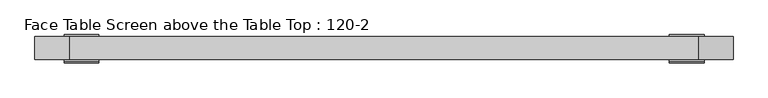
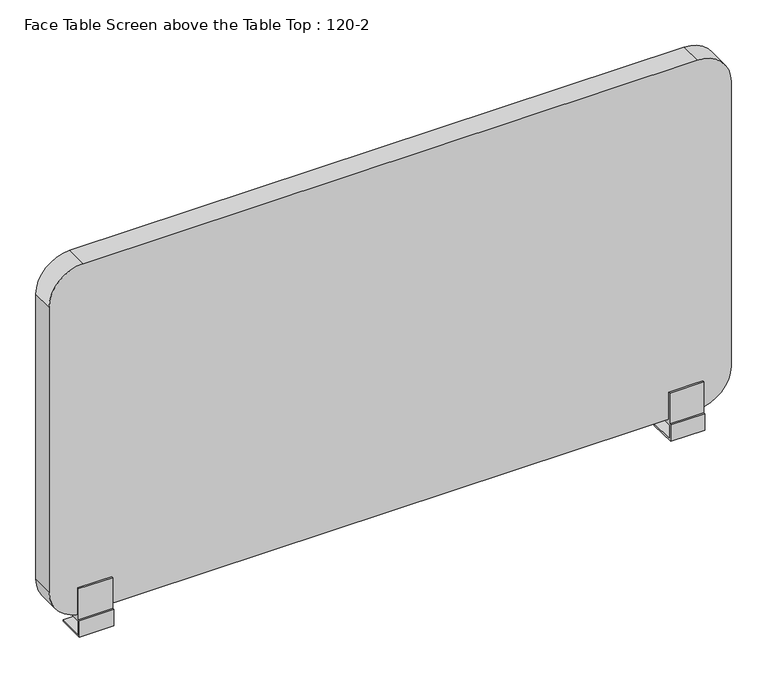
"""IFC4 building model written with IfcOpenShell, lengths in millimetres: furniture geometry, Face Table Screen above the Table Top : 120-2."""

from ifc_helpers import new_model, si_unit, point, frame, frame_2d, origin, place, context, project, spatial, polyline, circle_curve, trimmed, segment, composite_curve, outline, extrude, source, transform, mapped, element, save
from ifc_brep_helpers import plane_surface, cylinder_surface, advanced_brep


def face_table_screen_above_the_table_top_120_2_89d26c9a(model_context):
    return source(origin(), model_context, "Body", "SolidModel", [
        advanced_brep(
        [(-525.0, 0.0, -39.4406633), (-515.0, 0.0, -39.4406633), (-515.0, 0.0, -28.0), (-525.0, 0.0, -28.0), (-550.0, 23.0, -25.0), (-550.0, -23.0, -25.0), (-490.0, -23.0, -25.0), (-490.0, 23.0, -25.0), (-550.0, -23.0, 0.0), (-550.0, 23.0, -28.0), (-550.0, -26.0, -28.0), (-550.0, -26.0, 3.0), (-550.0, -23.0, 3.0), (-550.0, -23.0, 60.0), (-550.0, -20.0, 60.0), (-550.0, -20.0, 10.0), (-550.0, 20.0, 10.0), (-550.0, 20.0, 60.0), (-550.0, 23.0, 60.0), (-550.0, 23.0, 0.0), (-490.0, -23.0, 0.0), (-490.0, 23.0, 0.0), (-490.0, 23.0, 60.0), (-490.0, 20.0, 60.0), (-490.0, 20.0, 10.0), (-490.0, -20.0, 10.0), (-490.0, -20.0, 60.0), (-490.0, -23.0, 60.0), (-490.0, -23.0, 3.0), (-490.0, -26.0, 3.0), (-490.0, -26.0, -28.0), (-490.0, 23.0, -28.0)],
        [
            (0, 1, circle_curve(frame((-520.0, 0.0, -39.4406633), z_axis=(0.0, 0.0, -1.0), x_axis=(1.0, 0.0, 0.0)), 5.0)),
            (1, 0, circle_curve(frame((-520.0, 0.0, -39.4406633), z_axis=(0.0, 0.0, -1.0), x_axis=(1.0, 0.0, 0.0)), 5.0)),
            (1, 2),
            (2, 3, circle_curve(frame((-520.0, 0.0, -28.0), z_axis=(0.0, 0.0, -1.0), x_axis=(1.0, 0.0, 0.0)), 5.0)),
            (3, 0),
            (3, 2, circle_curve(frame((-520.0, 0.0, -28.0), z_axis=(0.0, 0.0, -1.0), x_axis=(1.0, 0.0, 0.0)), 5.0)),
            (4, 5),
            (5, 6),
            (6, 7),
            (7, 4),
            (8, 5),
            (4, 9),
            (9, 10),
            (10, 11),
            (11, 12),
            (12, 13),
            (13, 14),
            (14, 15),
            (15, 16),
            (16, 17),
            (17, 18),
            (18, 19),
            (19, 8),
            (20, 21),
            (21, 22),
            (22, 23),
            (23, 24),
            (24, 25),
            (25, 26),
            (26, 27),
            (27, 28),
            (28, 29),
            (29, 30),
            (30, 31),
            (31, 7),
            (6, 20),
            (19, 21),
            (20, 8),
            (18, 22),
            (17, 23),
            (16, 24),
            (15, 25),
            (14, 26),
            (13, 27),
            (12, 28),
            (11, 29),
            (10, 30),
            (9, 31),
        ],
        [
            plane_surface(frame((-515.0, 0.0, -39.4406633), z_axis=(0.0, 0.0, -1.0), x_axis=(0.0, -1.0, 0.0))),
            cylinder_surface(frame((-520.0, 0.0, -39.4406633), z_axis=(0.0, 0.0, 1.0), x_axis=(1.0, 0.0, 0.0)), 5.0),
            plane_surface(frame((-515.0, 0.0, -25.0), z_axis=(0.0, 0.0, 1.0), x_axis=(0.0, 1.0, 0.0))),
            plane_surface(frame((-550.0, 23.0, 0.0), z_axis=(-1.0, 0.0, 0.0), x_axis=(0.0, -1.0, 0.0))),
            plane_surface(frame((-490.0, 23.0, 0.0), z_axis=(1.0, 0.0, 0.0), x_axis=(0.0, 1.0, 0.0))),
            plane_surface(frame((-490.0, -23.0, 0.0), z_axis=(0.0, 0.0, -1.0), x_axis=(-1.0, 0.0, 0.0))),
            plane_surface(frame((-490.0, 23.0, 0.0), z_axis=(0.0, 1.0, 0.0), x_axis=(-1.0, 0.0, 0.0))),
            plane_surface(frame((-490.0, 23.0, 60.0), z_axis=(0.0, 0.0, 1.0), x_axis=(-1.0, 0.0, 0.0))),
            plane_surface(frame((-490.0, 20.0, 60.0), z_axis=(0.0, -1.0, 0.0), x_axis=(-1.0, 0.0, 0.0))),
            plane_surface(frame((-490.0, 20.0, 10.0), z_axis=(0.0, 0.0, 1.0), x_axis=(-1.0, 0.0, 0.0))),
            plane_surface(frame((-490.0, -20.0, 10.0), z_axis=(0.0, 1.0, 0.0), x_axis=(-1.0, 0.0, 0.0))),
            plane_surface(frame((-490.0, -20.0, 60.0), z_axis=(0.0, 0.0, 1.0), x_axis=(-1.0, 0.0, 0.0))),
            plane_surface(frame((-490.0, -23.0, 60.0), z_axis=(0.0, -1.0, 0.0), x_axis=(-1.0, 0.0, 0.0))),
            plane_surface(frame((-490.0, -23.0, 3.0), z_axis=(0.0, 0.0, 1.0), x_axis=(-1.0, 0.0, 0.0))),
            plane_surface(frame((-490.0, -26.0, 3.0), z_axis=(0.0, -1.0, 0.0), x_axis=(-1.0, 0.0, 0.0))),
            plane_surface(frame((-490.0, -26.0, -28.0), z_axis=(0.0, 0.0, -1.0), x_axis=(-1.0, 0.0, 0.0))),
            plane_surface(frame((-490.0, 23.0, -28.0), z_axis=(0.0, 1.0, 0.0), x_axis=(-1.0, 0.0, 0.0))),
            plane_surface(frame((-490.0, -23.0, -25.0), z_axis=(0.0, 1.0, 0.0), x_axis=(-1.0, 0.0, 0.0))),
        ],
        [
            (0, [[1, 2]]),
            (1, [[-2, 3, 4, 5]]),
            (1, [[-1, -5, 6, -3]]),
            (2, [[7, 8, 9, 10]]),
            (3, [[11, -7, 12, 13, 14, 15, 16, 17, 18, 19, 20, 21, 22, 23]]),
            (4, [[24, 25, 26, 27, 28, 29, 30, 31, 32, 33, 34, 35, -9, 36]]),
            (5, [[-23, 37, -24, 38]]),
            (6, [[-22, 39, -25, -37]]),
            (7, [[-21, 40, -26, -39]]),
            (8, [[-20, 41, -27, -40]]),
            (9, [[-19, 42, -28, -41]]),
            (10, [[-18, 43, -29, -42]]),
            (11, [[-17, 44, -30, -43]]),
            (12, [[-16, 45, -31, -44]]),
            (13, [[-15, 46, -32, -45]]),
            (14, [[-14, 47, -33, -46]]),
            (15, [[-13, 48, -34, -47], [-4, -6]]),
            (16, [[-12, -10, -35, -48]]),
            (17, [[-11, -38, -36, -8]]),
        ],
    ),
        advanced_brep(
        [(515.0, 0.0, -39.4406633), (525.0, 0.0, -39.4406633), (525.0, 0.0, -28.0), (515.0, 0.0, -28.0), (490.0, 23.0, -25.0), (490.0, -23.0, -25.0), (550.0, -23.0, -25.0), (550.0, 23.0, -25.0), (490.0, -23.0, 0.0), (490.0, 23.0, -28.0), (490.0, -26.0, -28.0), (490.0, -26.0, 3.0), (490.0, -23.0, 3.0), (490.0, -23.0, 60.0), (490.0, -20.0, 60.0), (490.0, -20.0, 10.0), (490.0, 20.0, 10.0), (490.0, 20.0, 60.0), (490.0, 23.0, 60.0), (490.0, 23.0, 0.0), (550.0, -23.0, 0.0), (550.0, 23.0, 0.0), (550.0, 23.0, 60.0), (550.0, 20.0, 60.0), (550.0, 20.0, 10.0), (550.0, -20.0, 10.0), (550.0, -20.0, 60.0), (550.0, -23.0, 60.0), (550.0, -23.0, 3.0), (550.0, -26.0, 3.0), (550.0, -26.0, -28.0), (550.0, 23.0, -28.0)],
        [
            (0, 1, circle_curve(frame((520.0, 0.0, -39.4406633), z_axis=(0.0, 0.0, -1.0), x_axis=(1.0, 0.0, 0.0)), 5.0)),
            (1, 0, circle_curve(frame((520.0, 0.0, -39.4406633), z_axis=(0.0, 0.0, -1.0), x_axis=(1.0, 0.0, 0.0)), 5.0)),
            (1, 2),
            (2, 3, circle_curve(frame((520.0, 0.0, -28.0), z_axis=(0.0, 0.0, -1.0), x_axis=(1.0, 0.0, 0.0)), 5.0)),
            (3, 0),
            (3, 2, circle_curve(frame((520.0, 0.0, -28.0), z_axis=(0.0, 0.0, -1.0), x_axis=(1.0, 0.0, 0.0)), 5.0)),
            (4, 5),
            (5, 6),
            (6, 7),
            (7, 4),
            (8, 5),
            (4, 9),
            (9, 10),
            (10, 11),
            (11, 12),
            (12, 13),
            (13, 14),
            (14, 15),
            (15, 16),
            (16, 17),
            (17, 18),
            (18, 19),
            (19, 8),
            (20, 21),
            (21, 22),
            (22, 23),
            (23, 24),
            (24, 25),
            (25, 26),
            (26, 27),
            (27, 28),
            (28, 29),
            (29, 30),
            (30, 31),
            (31, 7),
            (6, 20),
            (19, 21),
            (20, 8),
            (18, 22),
            (17, 23),
            (16, 24),
            (15, 25),
            (14, 26),
            (13, 27),
            (12, 28),
            (11, 29),
            (10, 30),
            (9, 31),
        ],
        [
            plane_surface(frame((525.0, 0.0, -39.4406633), z_axis=(0.0, 0.0, -1.0), x_axis=(0.0, -1.0, 0.0))),
            cylinder_surface(frame((520.0, 0.0, -39.4406633), z_axis=(0.0, 0.0, 1.0), x_axis=(1.0, 0.0, 0.0)), 5.0),
            plane_surface(frame((525.0, 0.0, -25.0), z_axis=(0.0, 0.0, 1.0), x_axis=(0.0, 1.0, 0.0))),
            plane_surface(frame((490.0, 23.0, 0.0), z_axis=(-1.0, 0.0, 0.0), x_axis=(0.0, -1.0, 0.0))),
            plane_surface(frame((550.0, 23.0, 0.0), z_axis=(1.0, 0.0, 0.0), x_axis=(0.0, 1.0, 0.0))),
            plane_surface(frame((550.0, -23.0, 0.0), z_axis=(0.0, 0.0, -1.0), x_axis=(-1.0, 0.0, 0.0))),
            plane_surface(frame((550.0, 23.0, 0.0), z_axis=(0.0, 1.0, 0.0), x_axis=(-1.0, 0.0, 0.0))),
            plane_surface(frame((550.0, 23.0, 60.0), z_axis=(0.0, 0.0, 1.0), x_axis=(-1.0, 0.0, 0.0))),
            plane_surface(frame((550.0, 20.0, 60.0), z_axis=(0.0, -1.0, 0.0), x_axis=(-1.0, 0.0, 0.0))),
            plane_surface(frame((550.0, 20.0, 10.0), z_axis=(0.0, 0.0, 1.0), x_axis=(-1.0, 0.0, 0.0))),
            plane_surface(frame((550.0, -20.0, 10.0), z_axis=(0.0, 1.0, 0.0), x_axis=(-1.0, 0.0, 0.0))),
            plane_surface(frame((550.0, -20.0, 60.0), z_axis=(0.0, 0.0, 1.0), x_axis=(-1.0, 0.0, 0.0))),
            plane_surface(frame((550.0, -23.0, 60.0), z_axis=(0.0, -1.0, 0.0), x_axis=(-1.0, 0.0, 0.0))),
            plane_surface(frame((550.0, -23.0, 3.0), z_axis=(0.0, 0.0, 1.0), x_axis=(-1.0, 0.0, 0.0))),
            plane_surface(frame((550.0, -26.0, 3.0), z_axis=(0.0, -1.0, 0.0), x_axis=(-1.0, 0.0, 0.0))),
            plane_surface(frame((550.0, -26.0, -28.0), z_axis=(0.0, 0.0, -1.0), x_axis=(-1.0, 0.0, 0.0))),
            plane_surface(frame((550.0, 23.0, -28.0), z_axis=(0.0, 1.0, 0.0), x_axis=(-1.0, 0.0, 0.0))),
            plane_surface(frame((550.0, -23.0, -25.0), z_axis=(0.0, 1.0, 0.0), x_axis=(-1.0, 0.0, 0.0))),
        ],
        [
            (0, [[1, 2]]),
            (1, [[-2, 3, 4, 5]]),
            (1, [[-1, -5, 6, -3]]),
            (2, [[7, 8, 9, 10]]),
            (3, [[11, -7, 12, 13, 14, 15, 16, 17, 18, 19, 20, 21, 22, 23]]),
            (4, [[24, 25, 26, 27, 28, 29, 30, 31, 32, 33, 34, 35, -9, 36]]),
            (5, [[-23, 37, -24, 38]]),
            (6, [[-22, 39, -25, -37]]),
            (7, [[-21, 40, -26, -39]]),
            (8, [[-20, 41, -27, -40]]),
            (9, [[-19, 42, -28, -41]]),
            (10, [[-18, 43, -29, -42]]),
            (11, [[-17, 44, -30, -43]]),
            (12, [[-16, 45, -31, -44]]),
            (13, [[-15, 46, -32, -45]]),
            (14, [[-14, 47, -33, -46]]),
            (15, [[-13, 48, -34, -47], [-4, -6]]),
            (16, [[-12, -10, -35, -48]]),
            (17, [[-11, -38, -36, -8]]),
        ],
    ),
        extrude(outline(composite_curve([segment(polyline([(660.0, 540.0), (660.0, -540.0)]), True, "CONTINUOUS"), segment(trimmed(circle_curve(frame_2d((600.0, -540.0)), 60.0), [point((660.0, -540.0))], [point((600.0, -600.0))], False, "CARTESIAN"), True, "CONTINUOUS"), segment(polyline([(600.0, -600.0), (70.0, -600.0)]), True, "CONTINUOUS"), segment(trimmed(circle_curve(frame_2d((70.0, -540.0)), 60.0), [point((70.0, -600.0))], [point((10.0, -540.0))], False, "CARTESIAN"), True, "CONTINUOUS"), segment(polyline([(10.0, -540.0), (10.0, 540.0)]), True, "CONTINUOUS"), segment(trimmed(circle_curve(frame_2d((70.0, 540.0)), 60.0), [point((10.0, 540.0))], [point((70.0, 600.0))], False, "CARTESIAN"), True, "CONTINUOUS"), segment(polyline([(70.0, 600.0), (600.0, 600.0)]), True, "CONTINUOUS"), segment(trimmed(circle_curve(frame_2d((600.0, 540.0)), 60.0), [point((600.0, 600.0))], [point((660.0, 540.0))], False, "CARTESIAN"), True, "CONTINUOUS")], self_intersect=False)), frame((0.0, -20.0, 0.0), z_axis=(0.0, 1.0, 0.0), x_axis=(0.0, 0.0, 1.0)), (0.0, 0.0, 1.0), 40.0),
    ])


if __name__ == "__main__":
    model = new_model("IFC4")
    model_context = context("Model", 3, world=origin())
    ifc_project = project(units=[si_unit("LENGTHUNIT", "METRE", prefix="MILLI")], contexts=[model_context])
    site = spatial("IfcSite", under=ifc_project)
    building = spatial("IfcBuilding", under=site)
    placement = place(None, origin())
    face_table_screen_above_the_table_top_120_2_shape = face_table_screen_above_the_table_top_120_2_89d26c9a(model_context)
    element("IfcFurniture", 1, ObjectType="Face Table Screen above the Table Top : 120-2", at=placement, inside=building, context=model_context, shape_type="MappedRepresentation", body=[
        mapped(face_table_screen_above_the_table_top_120_2_shape, transform((0.0, 0.0, 0.0), x_axis=(1.0, 0.0, 0.0), y_axis=(0.0, 1.0, 0.0), z_axis=(0.0, 0.0, 1.0))),
    ])
    save(model, "model.ifc")
